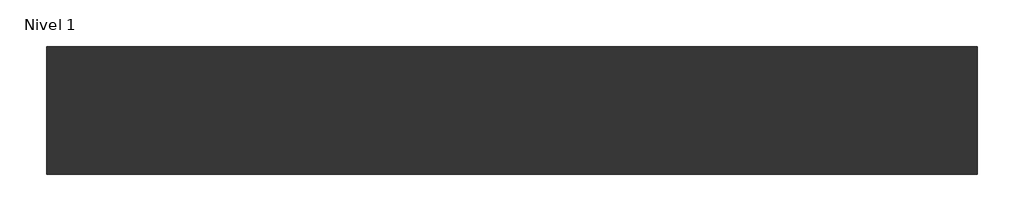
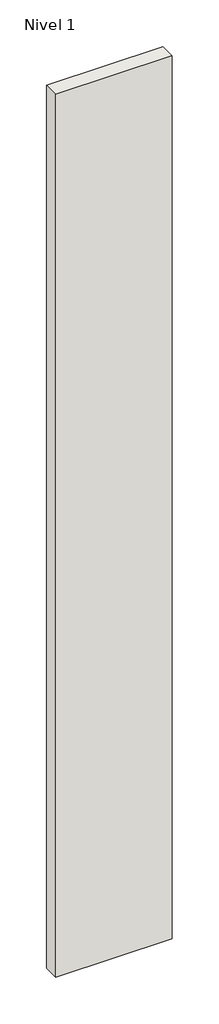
# One storey: 1 wall.
"""IFC4 building model written with IfcOpenShell, lengths in millimetres."""

from ifc_helpers import new_model, si_unit, origin, origin_with_axes, place, context, project, spatial, polyline, outline, extrude, element, save

model = new_model("IFC4")

# Units and contexts
model_context = context("Model", 3, world=origin())
ifc_project = project(units=[si_unit("LENGTHUNIT", "METRE", prefix="MILLI")], contexts=[model_context])

# Site, building, storey
site = spatial("IfcSite", under=ifc_project)
building = spatial("IfcBuilding", under=site)
storey = spatial("IfcBuildingStorey", under=building, Name="Nivel 1", Elevation=0.0)

# Wall
placement = place(None, origin())
element("IfcWall", 1, ObjectType="Trasdosado semidirecto simple - Sistema D07", at=placement, inside=storey, context=model_context, shape_type="SweptSolid", body=[
    extrude(outline(polyline([(-3436.220018, -2882.6024758), (-4436.220018, -2882.6024758), (-4436.220018, -2745.6024758), (-3436.220018, -2745.6024758), (-3436.220018, -2882.6024758)])), origin_with_axes(), (0.0, 0.0, 1.0), 8000.0),
])

save(model, "model.ifc")
